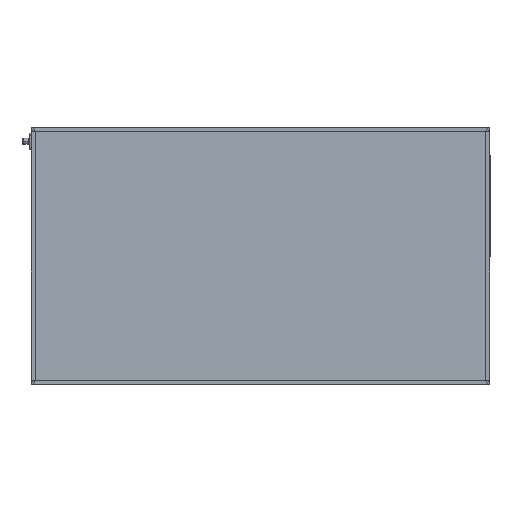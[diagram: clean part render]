
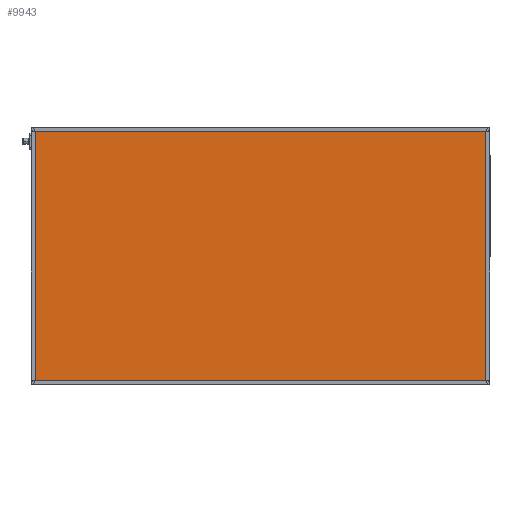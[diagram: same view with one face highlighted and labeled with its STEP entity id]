
A CAD part, top view. The second image highlights one B-rep face of the part: STEP entity #9943.
In plain terms, the highlighted planar face has unit normal (0, 0, 1).
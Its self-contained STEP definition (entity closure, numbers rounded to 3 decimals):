
#164 = LINE ( 'NONE', #10879, #13596 ) ;
#188 = VERTEX_POINT ( 'NONE', #12333 ) ;
#412 = CARTESIAN_POINT ( 'NONE',  ( 4., 496., 41.85 ) ) ;
#1767 = CARTESIAN_POINT ( 'NONE',  ( 896., 4., 41.85 ) ) ;
#2333 = VERTEX_POINT ( 'NONE', #8334 ) ;
#2435 = EDGE_LOOP ( 'NONE', ( #15247, #10114, #5333, #8462 ) ) ;
#3523 = FACE_OUTER_BOUND ( 'NONE', #2435, .T. ) ;
#5006 = DIRECTION ( 'NONE',  ( 0., 0., -1. ) ) ;
#5333 = ORIENTED_EDGE ( 'NONE', *, *, #8962, .T. ) ;
#5359 = EDGE_CURVE ( 'NONE', #11052, #188, #8566, .T. ) ;
#5559 = DIRECTION ( 'NONE',  ( -1., 0., 0. ) ) ;
#5773 = CARTESIAN_POINT ( 'NONE',  ( 896., 0., 41.85 ) ) ;
#6215 = CARTESIAN_POINT ( 'NONE',  ( 0., 0., 41.85 ) ) ;
#8334 = CARTESIAN_POINT ( 'NONE',  ( 4., 4., 41.85 ) ) ;
#8462 = ORIENTED_EDGE ( 'NONE', *, *, #9600, .T. ) ;
#8566 = LINE ( 'NONE', #5773, #13791 ) ;
#8962 = EDGE_CURVE ( 'NONE', #16752, #2333, #16929, .T. ) ;
#9012 = DIRECTION ( 'NONE',  ( -1., 0., 0. ) ) ;
#9600 = EDGE_CURVE ( 'NONE', #2333, #11052, #17211, .T. ) ;
#9943 = ADVANCED_FACE ( 'NONE', ( #3523 ), #10321, .F. ) ;
#10114 = ORIENTED_EDGE ( 'NONE', *, *, #12827, .T. ) ;
#10141 = CARTESIAN_POINT ( 'NONE',  ( 4., 0., 41.85 ) ) ;
#10321 = PLANE ( 'NONE',  #15785 ) ;
#10597 = DIRECTION ( 'NONE',  ( 1., 0., 0. ) ) ;
#10879 = CARTESIAN_POINT ( 'NONE',  ( 0., 496., 41.85 ) ) ;
#11052 = VERTEX_POINT ( 'NONE', #1767 ) ;
#11257 = DIRECTION ( 'NONE',  ( 0., 1., 0. ) ) ;
#12333 = CARTESIAN_POINT ( 'NONE',  ( 896., 496., 41.85 ) ) ;
#12827 = EDGE_CURVE ( 'NONE', #188, #16752, #164, .T. ) ;
#12996 = VECTOR ( 'NONE', #10597, 1000. ) ;
#13596 = VECTOR ( 'NONE', #5559, 1000. ) ;
#13791 = VECTOR ( 'NONE', #11257, 1000. ) ;
#15247 = ORIENTED_EDGE ( 'NONE', *, *, #5359, .T. ) ;
#15523 = VECTOR ( 'NONE', #15623, 1000. ) ;
#15623 = DIRECTION ( 'NONE',  ( 0., -1., 0. ) ) ;
#15785 = AXIS2_PLACEMENT_3D ( 'NONE', #6215, #5006, #9012 ) ;
#16752 = VERTEX_POINT ( 'NONE', #412 ) ;
#16866 = CARTESIAN_POINT ( 'NONE',  ( 0., 4., 41.85 ) ) ;
#16929 = LINE ( 'NONE', #10141, #15523 ) ;
#17211 = LINE ( 'NONE', #16866, #12996 ) ;
